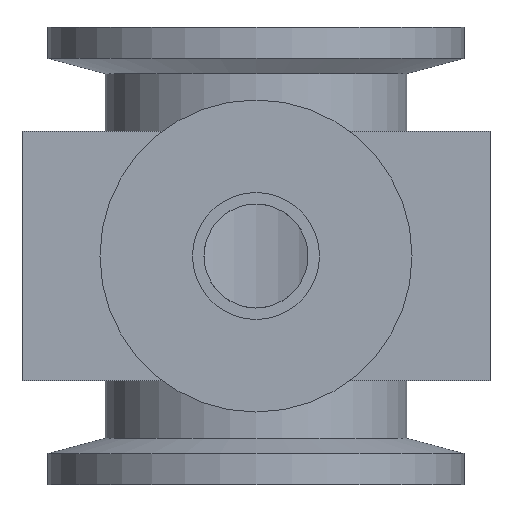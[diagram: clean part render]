
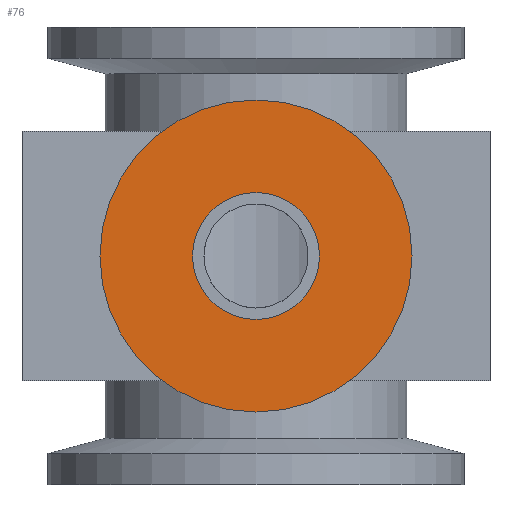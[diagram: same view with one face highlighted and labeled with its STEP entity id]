
A CAD part, left-side view. The second image highlights one B-rep face of the part: STEP entity #76.
In plain terms, the highlighted planar face has unit normal (-1, 0, 0).
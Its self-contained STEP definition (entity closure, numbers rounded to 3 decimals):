
#76 = ADVANCED_FACE( '', ( #170, #171 ), #172, .T. );
#170 = FACE_BOUND( '', #279, .T. );
#171 = FACE_OUTER_BOUND( '', #280, .T. );
#172 = PLANE( '', #281 );
#279 = EDGE_LOOP( '', ( #411 ) );
#280 = EDGE_LOOP( '', ( #412 ) );
#281 = AXIS2_PLACEMENT_3D( '', #413, #414, #415 );
#411 = ORIENTED_EDGE( '', *, *, #540, .T. );
#412 = ORIENTED_EDGE( '', *, *, #506, .F. );
#413 = CARTESIAN_POINT( '', ( -40., -15., 0. ) );
#414 = DIRECTION( '', ( -1., 0., 0. ) );
#415 = DIRECTION( '', ( 0., 0., 1. ) );
#506 = EDGE_CURVE( '', #568, #568, #569, .T. );
#540 = EDGE_CURVE( '', #624, #624, #625, .T. );
#568 = VERTEX_POINT( '', #658 );
#569 = CIRCLE( '', #659, 15. );
#624 = VERTEX_POINT( '', #791 );
#625 = CIRCLE( '', #792, 6.1 );
#658 = CARTESIAN_POINT( '', ( -40., 0., -15. ) );
#659 = AXIS2_PLACEMENT_3D( '', #833, #834, #835 );
#791 = CARTESIAN_POINT( '', ( -40., 0., -6.1 ) );
#792 = AXIS2_PLACEMENT_3D( '', #888, #889, #890 );
#833 = CARTESIAN_POINT( '', ( -40., 0., 0. ) );
#834 = DIRECTION( '', ( 1., 0., 0. ) );
#835 = DIRECTION( '', ( 0., 0., -1. ) );
#888 = CARTESIAN_POINT( '', ( -40., 0., 0. ) );
#889 = DIRECTION( '', ( 1., 0., 0. ) );
#890 = DIRECTION( '', ( 0., 0., -1. ) );
